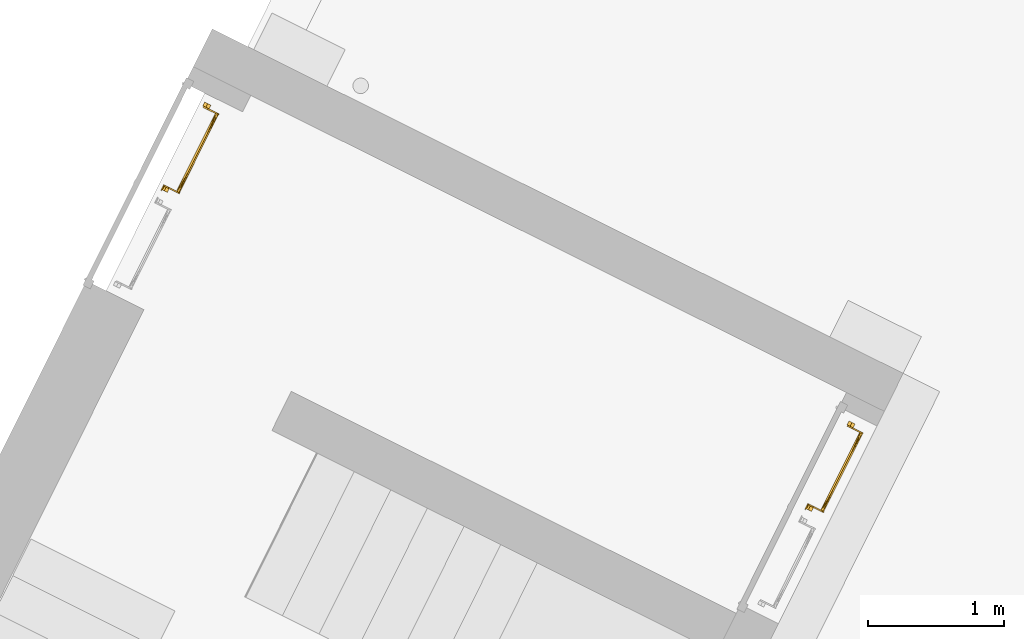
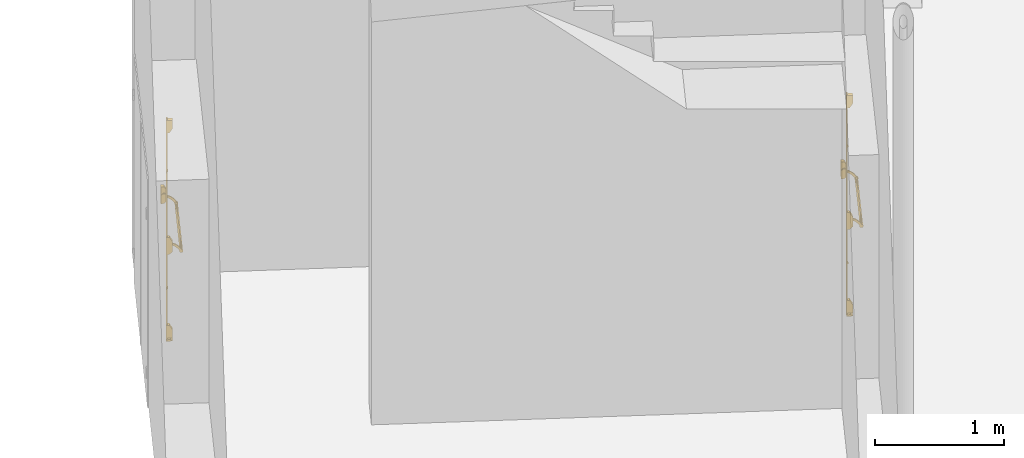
# One storey, part 25 of 91: 2 doors.
"""IFC2X3 building model written with IfcOpenShell, lengths in metres."""

from ifc_helpers import new_model, entity, si_unit, converted_unit, derived_unit, direction, frame, origin, place, context, subcontext, project, spatial, faceted_brep, source, transform, mapped, material, material_list, type_object, type_shapes, element, save


model = new_model("IFC2X3")

# Units and contexts
model_context = context("Model", 3, precision=1e-05, world=origin(), true_north=direction((0.894925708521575, 0.446215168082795)))
context_of_model = context(None, 3, precision=1e-05, world=origin(), true_north=direction((0.894925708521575, 0.446215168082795)))
body_context = subcontext(model_context, "Body", "Model", "MODEL_VIEW")
ifc_project = project(units=[si_unit("LENGTHUNIT", "METRE"), si_unit("AREAUNIT", "SQUARE_METRE"), si_unit("VOLUMEUNIT", "CUBIC_METRE"), converted_unit("PLANEANGLEUNIT", "DEGREE", entity("IfcRatioMeasure", 0.0174532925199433), si_unit("PLANEANGLEUNIT", "RADIAN"), dimensions=[0, 0, 0, 0, 0, 0, 0]), si_unit("MASSUNIT", "GRAM", prefix="KILO"), si_unit("TIMEUNIT", "SECOND"), si_unit("FREQUENCYUNIT", "HERTZ"), si_unit("THERMODYNAMICTEMPERATUREUNIT", "DEGREE_CELSIUS"), derived_unit("THERMALTRANSMITTANCEUNIT", [(si_unit("MASSUNIT", "GRAM", prefix="KILO"), 1), (si_unit("THERMODYNAMICTEMPERATUREUNIT", "KELVIN"), -1), (si_unit("TIMEUNIT", "SECOND"), -3)]), derived_unit("VOLUMETRICFLOWRATEUNIT", [(si_unit("LENGTHUNIT", "METRE"), 3), (si_unit("TIMEUNIT", "SECOND"), -1)]), si_unit("ELECTRICCURRENTUNIT", "AMPERE"), si_unit("ELECTRICVOLTAGEUNIT", "VOLT"), si_unit("POWERUNIT", "WATT"), si_unit("FORCEUNIT", "NEWTON", prefix="KILO"), si_unit("ILLUMINANCEUNIT", "LUX"), si_unit("LUMINOUSFLUXUNIT", "LUMEN"), si_unit("LUMINOUSINTENSITYUNIT", "CANDELA"), si_unit("PRESSUREUNIT", "PASCAL")], contexts=[model_context, context_of_model])

# Site, building, storey
site_placement = place(None, frame((218.228324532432, 584.720189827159, 0.0), z_axis=(0.0, 0.0, 1.0), x_axis=(0.446215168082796, 0.894925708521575, 0.0)))
site = spatial("IfcSite", under=ifc_project, at=site_placement, Name="Default", CompositionType="ELEMENT")
building_placement = place(site_placement, origin())
building = spatial("IfcBuilding", under=site, at=building_placement, CompositionType="ELEMENT")
storey_placement = place(building_placement, origin())
storey = spatial("IfcBuildingStorey", under=building, at=storey_placement, Name="0 - Piano Terra", CompositionType="ELEMENT", Elevation=0.0)

# Doors
ifc_material_1 = material(Name="Peinture - Gris fonçé")
ifc_material_2 = material(Name="Peinture - Gris")
ifc_material_list_1 = material_list([ifc_material_1, ifc_material_2])
ifc_material_list_2 = material_list([ifc_material_1, ifc_material_2])
door_style = type_object("IfcDoorStyle", Name="BarreAP", ConstructionType="NOTDEFINED", OperationType="NOTDEFINED", ParameterTakesPrecedence=False, Sizeable=False, material=ifc_material_list_2)
shared_shape = source(origin(), body_context, "Body", "Brep", [
    faceted_brep([(0.660000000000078, -0.115651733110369, 0.814015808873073), (0.660000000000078, -0.112636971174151, 0.815264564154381), (0.660000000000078, -0.110048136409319, 0.817251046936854), (0.660000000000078, -0.108061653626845, 0.819839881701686), (0.660000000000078, -0.106812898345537, 0.822854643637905), (0.660000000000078, -0.106386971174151, 0.826089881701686), (0.660000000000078, -0.106812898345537, 0.829325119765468), (0.660000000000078, -0.108061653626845, 0.832339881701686), (0.660000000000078, -0.110048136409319, 0.834928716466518), (0.660000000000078, -0.112636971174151, 0.836915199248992), (0.660000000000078, -0.115651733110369, 0.838163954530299), (0.660000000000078, -0.118886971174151, 0.838589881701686), (0.660000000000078, -0.122122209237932, 0.838163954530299), (0.660000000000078, -0.125136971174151, 0.836915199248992), (0.660000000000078, -0.127725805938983, 0.834928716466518), (0.660000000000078, -0.129712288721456, 0.832339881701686), (0.660000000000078, -0.130961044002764, 0.829325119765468), (0.660000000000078, -0.131386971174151, 0.826089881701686), (0.660000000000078, -0.130961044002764, 0.822854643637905), (0.660000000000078, -0.129712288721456, 0.819839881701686), (0.660000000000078, -0.127725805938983, 0.817251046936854), (0.660000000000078, -0.125136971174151, 0.815264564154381), (0.660000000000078, -0.122122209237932, 0.814015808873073), (0.660000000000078, -0.118886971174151, 0.813589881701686), (0.0250000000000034, -0.122122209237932, 0.838163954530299), (0.0250000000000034, -0.118886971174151, 0.838589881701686), (0.0250000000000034, -0.115651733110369, 0.838163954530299), (0.0250000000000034, -0.112636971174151, 0.836915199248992), (0.0250000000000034, -0.110048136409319, 0.834928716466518), (0.0250000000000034, -0.108061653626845, 0.832339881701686), (0.0250000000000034, -0.106812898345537, 0.829325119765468), (0.0250000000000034, -0.106386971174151, 0.826089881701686), (0.0250000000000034, -0.106812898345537, 0.822854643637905), (0.0250000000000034, -0.108061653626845, 0.819839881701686), (0.0250000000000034, -0.110048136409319, 0.817251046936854), (0.0250000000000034, -0.112636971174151, 0.815264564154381), (0.0250000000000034, -0.115651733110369, 0.814015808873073), (0.0250000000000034, -0.118886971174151, 0.813589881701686), (0.0250000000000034, -0.122122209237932, 0.814015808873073), (0.0250000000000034, -0.125136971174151, 0.815264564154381), (0.0250000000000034, -0.127725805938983, 0.817251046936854), (0.0250000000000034, -0.129712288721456, 0.819839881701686), (0.0250000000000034, -0.130961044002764, 0.822854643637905), (0.0250000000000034, -0.131386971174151, 0.826089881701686), (0.0250000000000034, -0.130961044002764, 0.829325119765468), (0.0250000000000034, -0.129712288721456, 0.832339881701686), (0.0250000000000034, -0.127725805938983, 0.834928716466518), (0.0250000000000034, -0.125136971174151, 0.836915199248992), (0.187822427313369, -0.117501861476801, 0.813666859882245), (0.148450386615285, -0.131386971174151, 0.826089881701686), (0.342500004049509, -0.117635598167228, 0.813652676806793), (0.27190080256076, -0.106386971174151, 0.826089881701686), (0.342500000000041, -0.106386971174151, 0.826089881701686), (0.413099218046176, -0.106386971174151, 0.826089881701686), (0.497177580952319, -0.117501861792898, 0.813666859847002), (0.536549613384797, -0.131386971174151, 0.826089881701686), (0.342500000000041, -0.131386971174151, 0.826089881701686), (0.413099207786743, -0.131386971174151, 0.826089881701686), (0.536549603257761, -0.106386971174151, 0.826089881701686), (0.14845039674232, -0.106386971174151, 0.826089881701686), (0.271900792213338, -0.131386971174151, 0.826089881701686), (0.49717758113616, -0.120272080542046, 0.83851290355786), (0.187822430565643, -0.120272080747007, 0.838512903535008), (0.342500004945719, -0.120138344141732, 0.838527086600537)], [[[0, 1, 2, 3, 4, 5, 6, 7, 8, 9, 10, 11, 12, 13, 14, 15, 16, 17, 18, 19, 20, 21, 22, 23]], [[24, 25, 26, 27, 28, 29, 30, 31, 32, 33, 34, 35, 36, 37, 38, 39, 40, 41, 42, 43, 44, 45, 46, 47]], [[35, 48, 36]], [[38, 48, 39]], [[39, 49, 40]], [[48, 35, 34]], [[50, 51, 52, 53]], [[23, 54, 0]], [[55, 20, 19]], [[49, 41, 40]], [[55, 54, 21]], [[37, 36, 48]], [[41, 49, 42]], [[42, 49, 43]], [[18, 17, 55]], [[48, 50, 56]], [[54, 56, 50]], [[54, 55, 57, 56]], [[4, 3, 54]], [[55, 19, 18]], [[37, 48, 38]], [[34, 33, 48]], [[32, 48, 33]], [[48, 32, 51]], [[50, 48, 51]], [[4, 53, 58, 5]], [[32, 31, 59, 51]], [[48, 56, 60, 49]], [[20, 55, 21]], [[22, 21, 54]], [[4, 54, 53]], [[23, 22, 54]], [[54, 2, 1]], [[1, 0, 54]], [[49, 39, 48]], [[50, 53, 54]], [[3, 2, 54]], [[16, 15, 61]], [[59, 27, 62]], [[16, 61, 57]], [[62, 27, 26]], [[62, 63, 52]], [[15, 14, 61]], [[8, 7, 58]], [[59, 29, 28]], [[62, 25, 24]], [[58, 61, 9]], [[59, 31, 30]], [[6, 5, 58]], [[11, 61, 12]], [[7, 6, 58]], [[52, 63, 61]], [[25, 62, 26]], [[28, 27, 59]], [[47, 46, 62]], [[61, 58, 53, 52]], [[63, 60, 56, 57]], [[29, 59, 30]], [[45, 62, 46]], [[44, 62, 45]], [[62, 44, 60]], [[63, 62, 60]], [[16, 57, 55, 17]], [[44, 43, 49, 60]], [[47, 62, 24]], [[8, 58, 9]], [[61, 10, 9]], [[11, 10, 61]], [[14, 13, 61]], [[12, 61, 13]], [[63, 57, 61]], [[62, 52, 51, 59]]]),
    faceted_brep([(0.660000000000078, -0.0338758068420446, 0.91792261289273), (0.660000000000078, -0.0289439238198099, 0.919607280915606), (0.660000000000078, -0.0237442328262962, 0.919960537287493), (0.660000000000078, -0.0186298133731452, 0.918958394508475), (0.660000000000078, -0.0139479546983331, 0.916668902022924), (0.660000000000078, -0.0100165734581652, 0.913247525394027), (0.660000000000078, -0.00710262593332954, 0.908926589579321), (0.660000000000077, -0.00540398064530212, 0.903999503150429), (0.660000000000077, -0.00503598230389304, 0.898800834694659), (0.660000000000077, -0.0060236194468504, 0.893683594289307), (0.660000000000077, -0.00829982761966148, 0.888995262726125), (0.660000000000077, -0.0117100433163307, 0.885054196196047), (0.660000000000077, -0.0160226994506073, 0.88212800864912), (0.660000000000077, -0.0209449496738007, 0.880415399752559), (0.660000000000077, -0.0261425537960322, 0.880032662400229), (0.660000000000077, -0.0312625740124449, 0.881005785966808), (0.660000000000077, -0.0359573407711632, 0.883268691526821), (0.660000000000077, -0.039908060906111, 0.886667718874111), (0.660000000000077, -0.065856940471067, 0.873811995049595), (0.660000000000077, -0.0879705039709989, 0.855114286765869), (0.660000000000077, -0.10496092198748, 0.831663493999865), (0.660000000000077, -0.104007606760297, 0.827988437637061), (0.660000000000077, -0.10400755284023, 0.824191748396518), (0.660000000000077, -0.104960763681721, 0.820516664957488), (0.660000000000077, -0.106806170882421, 0.817198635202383), (0.660000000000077, -0.109425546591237, 0.814450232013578), (0.660000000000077, -0.112651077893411, 0.812447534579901), (0.660000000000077, -0.11627611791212, 0.811318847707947), (0.660000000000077, -0.120068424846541, 0.811136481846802), (0.660000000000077, -0.123785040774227, 0.811912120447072), (0.660000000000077, -0.127187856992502, 0.813596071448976), (0.660000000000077, -0.130058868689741, 0.816080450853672), (0.660000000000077, -0.132214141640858, 0.819206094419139), (0.660000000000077, -0.133515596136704, 0.822772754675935), (0.660000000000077, -0.133879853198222, 0.826551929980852), (0.660000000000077, -0.133283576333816, 0.830301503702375), (0.660000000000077, -0.13176496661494, 0.833781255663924), (0.660000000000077, -0.129421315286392, 0.836768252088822), (0.660000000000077, -0.126402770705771, 0.839071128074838), (0.660000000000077, -0.122902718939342, 0.840542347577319), (0.660000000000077, -0.10242643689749, 0.868938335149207), (0.660000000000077, -0.0755453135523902, 0.891366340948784), (0.660000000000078, -0.0439402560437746, 0.906423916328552), (0.660000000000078, -0.041637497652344, 0.911099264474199), (0.660000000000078, -0.0382049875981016, 0.915020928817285), (0.670000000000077, -0.127187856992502, 0.813596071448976), (0.670000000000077, -0.123785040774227, 0.811912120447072), (0.670000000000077, -0.120068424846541, 0.811136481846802), (0.670000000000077, -0.11627611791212, 0.811318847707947), (0.670000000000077, -0.112651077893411, 0.812447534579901), (0.670000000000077, -0.109425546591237, 0.814450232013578), (0.670000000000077, -0.106806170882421, 0.817198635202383), (0.670000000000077, -0.104960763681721, 0.820516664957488), (0.670000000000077, -0.10400755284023, 0.824191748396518), (0.670000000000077, -0.104007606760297, 0.827988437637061), (0.670000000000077, -0.10496092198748, 0.831663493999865), (0.670000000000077, -0.0879705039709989, 0.855114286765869), (0.670000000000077, -0.065856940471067, 0.873811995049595), (0.670000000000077, -0.039908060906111, 0.886667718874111), (0.670000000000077, -0.0359573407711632, 0.883268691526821), (0.670000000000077, -0.0312625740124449, 0.881005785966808), (0.670000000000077, -0.0261425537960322, 0.880032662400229), (0.670000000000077, -0.0209449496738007, 0.880415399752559), (0.670000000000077, -0.0160226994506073, 0.88212800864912), (0.670000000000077, -0.0117100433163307, 0.885054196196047), (0.670000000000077, -0.00829982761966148, 0.888995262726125), (0.670000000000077, -0.0060236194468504, 0.893683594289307), (0.670000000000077, -0.00503598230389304, 0.898800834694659), (0.670000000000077, -0.00540398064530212, 0.903999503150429), (0.670000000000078, -0.00710262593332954, 0.908926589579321), (0.670000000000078, -0.0100165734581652, 0.913247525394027), (0.670000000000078, -0.0139479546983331, 0.916668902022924), (0.670000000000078, -0.0186298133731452, 0.918958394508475), (0.670000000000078, -0.0237442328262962, 0.919960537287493), (0.670000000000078, -0.0289439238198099, 0.919607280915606), (0.670000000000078, -0.0338758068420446, 0.91792261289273), (0.670000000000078, -0.0382049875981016, 0.915020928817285), (0.670000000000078, -0.041637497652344, 0.911099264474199), (0.670000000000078, -0.0439402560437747, 0.906423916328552), (0.670000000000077, -0.0755453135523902, 0.891366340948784), (0.670000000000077, -0.10242643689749, 0.868938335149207), (0.670000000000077, -0.122902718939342, 0.840542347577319), (0.670000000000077, -0.126402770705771, 0.839071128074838), (0.670000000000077, -0.129421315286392, 0.836768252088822), (0.670000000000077, -0.13176496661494, 0.833781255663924), (0.670000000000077, -0.133283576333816, 0.830301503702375), (0.670000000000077, -0.133879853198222, 0.826551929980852), (0.670000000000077, -0.133515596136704, 0.822772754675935), (0.670000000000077, -0.132214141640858, 0.819206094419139), (0.670000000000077, -0.130058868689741, 0.816080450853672)], [[[0, 1, 2, 3, 4, 5, 6, 7, 8, 9, 10, 11, 12, 13, 14, 15, 16, 17, 18, 19, 20, 21, 22, 23, 24, 25, 26, 27, 28, 29, 30, 31, 32, 33, 34, 35, 36, 37, 38, 39, 40, 41, 42, 43, 44]], [[45, 46, 47, 48, 49, 50, 51, 52, 53, 54, 55, 56, 57, 58, 59, 60, 61, 62, 63, 64, 65, 66, 67, 68, 69, 70, 71, 72, 73, 74, 75, 76, 77, 78, 79, 80, 81, 82, 83, 84, 85, 86, 87, 88, 89]], [[77, 43, 42, 78]], [[75, 0, 44, 76]], [[44, 43, 77, 76]], [[1, 0, 75, 74]], [[3, 2, 73, 72]], [[5, 4, 71, 70]], [[72, 71, 4, 3]], [[74, 73, 2, 1]], [[69, 6, 5, 70]], [[6, 69, 68, 7]], [[67, 8, 7, 68]], [[65, 10, 9, 66]], [[9, 8, 67, 66]], [[11, 10, 65, 64]], [[13, 12, 63, 62]], [[15, 14, 61, 60]], [[62, 61, 14, 13]], [[64, 63, 12, 11]], [[59, 16, 15, 60]], [[59, 58, 17, 16]], [[58, 57, 18, 17]], [[57, 56, 19, 18]], [[56, 55, 20, 19]], [[54, 21, 20, 55]], [[52, 23, 22, 53]], [[22, 21, 54, 53]], [[24, 23, 52, 51]], [[26, 25, 50, 49]], [[28, 27, 48, 47]], [[49, 48, 27, 26]], [[51, 50, 25, 24]], [[46, 29, 28, 47]], [[46, 45, 30, 29]], [[89, 31, 30, 45]], [[87, 33, 32, 88]], [[32, 31, 89, 88]], [[34, 33, 87, 86]], [[36, 35, 85, 84]], [[38, 37, 83, 82]], [[84, 83, 37, 36]], [[86, 85, 35, 34]], [[81, 39, 38, 82]], [[81, 80, 40, 39]], [[80, 79, 41, 40]], [[79, 78, 42, 41]]]),
    faceted_brep([(0.025, -0.129421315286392, 0.836768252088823), (0.025, -0.13176496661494, 0.833781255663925), (0.025, -0.133283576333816, 0.830301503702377), (0.025, -0.133879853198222, 0.826551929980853), (0.025, -0.133515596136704, 0.822772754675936), (0.025, -0.132214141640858, 0.819206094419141), (0.025, -0.130058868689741, 0.816080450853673), (0.025, -0.127187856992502, 0.813596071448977), (0.025, -0.123785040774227, 0.811912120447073), (0.025, -0.120068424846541, 0.811136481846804), (0.025, -0.11627611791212, 0.811318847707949), (0.025, -0.112651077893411, 0.812447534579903), (0.025, -0.109425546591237, 0.81445023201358), (0.025, -0.106806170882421, 0.817198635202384), (0.025, -0.104960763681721, 0.82051666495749), (0.025, -0.10400755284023, 0.824191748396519), (0.025, -0.104007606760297, 0.827988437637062), (0.025, -0.10496092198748, 0.831663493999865), (0.025, -0.0879705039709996, 0.85511428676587), (0.025, -0.0658569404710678, 0.873811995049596), (0.025, -0.0399080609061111, 0.886667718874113), (0.025, -0.0359573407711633, 0.883268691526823), (0.025, -0.031262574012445, 0.881005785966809), (0.025, -0.0261425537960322, 0.88003266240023), (0.025, -0.0209449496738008, 0.880415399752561), (0.025, -0.0160226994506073, 0.882128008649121), (0.025, -0.0117100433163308, 0.885054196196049), (0.025, -0.00829982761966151, 0.888995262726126), (0.025, -0.00602361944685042, 0.893683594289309), (0.025, -0.00503598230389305, 0.89880083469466), (0.025, -0.00540398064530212, 0.903999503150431), (0.025, -0.00710262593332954, 0.908926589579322), (0.025, -0.0100165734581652, 0.913247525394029), (0.025, -0.0139479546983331, 0.916668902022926), (0.025, -0.0186298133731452, 0.918958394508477), (0.025, -0.0237442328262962, 0.919960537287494), (0.025, -0.0289439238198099, 0.919607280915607), (0.025, -0.0338758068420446, 0.917922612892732), (0.025, -0.0382049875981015, 0.915020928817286), (0.025, -0.041637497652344, 0.9110992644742), (0.025, -0.0439402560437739, 0.906423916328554), (0.025, -0.0755453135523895, 0.891366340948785), (0.025, -0.10242643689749, 0.868938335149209), (0.025, -0.122902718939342, 0.84054234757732), (0.025, -0.126402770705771, 0.839071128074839), (0.015, -0.00710262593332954, 0.908926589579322), (0.015, -0.00540398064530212, 0.903999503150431), (0.015, -0.00503598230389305, 0.89880083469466), (0.015, -0.00602361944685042, 0.893683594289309), (0.015, -0.00829982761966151, 0.888995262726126), (0.015, -0.0117100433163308, 0.885054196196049), (0.015, -0.0160226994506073, 0.882128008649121), (0.015, -0.0209449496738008, 0.880415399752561), (0.015, -0.0261425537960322, 0.88003266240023), (0.015, -0.031262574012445, 0.881005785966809), (0.015, -0.0359573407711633, 0.883268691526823), (0.015, -0.0399080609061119, 0.886667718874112), (0.015, -0.0658569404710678, 0.873811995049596), (0.015, -0.0879705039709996, 0.85511428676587), (0.015, -0.10496092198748, 0.831663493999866), (0.015, -0.104007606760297, 0.827988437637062), (0.015, -0.10400755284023, 0.824191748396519), (0.015, -0.104960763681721, 0.82051666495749), (0.015, -0.106806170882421, 0.817198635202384), (0.015, -0.109425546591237, 0.81445023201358), (0.015, -0.112651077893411, 0.812447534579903), (0.015, -0.11627611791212, 0.811318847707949), (0.015, -0.120068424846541, 0.811136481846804), (0.015, -0.123785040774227, 0.811912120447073), (0.015, -0.127187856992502, 0.813596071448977), (0.015, -0.130058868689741, 0.816080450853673), (0.015, -0.132214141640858, 0.819206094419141), (0.015, -0.133515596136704, 0.822772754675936), (0.015, -0.133879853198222, 0.826551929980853), (0.015, -0.133283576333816, 0.830301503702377), (0.015, -0.13176496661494, 0.833781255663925), (0.015, -0.129421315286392, 0.836768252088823), (0.015, -0.126402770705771, 0.839071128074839), (0.015, -0.122902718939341, 0.840542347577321), (0.015, -0.10242643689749, 0.868938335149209), (0.015, -0.0755453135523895, 0.891366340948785), (0.015, -0.0439402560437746, 0.906423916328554), (0.015, -0.041637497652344, 0.9110992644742), (0.015, -0.0382049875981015, 0.915020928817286), (0.015, -0.0338758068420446, 0.917922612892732), (0.015, -0.0289439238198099, 0.919607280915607), (0.015, -0.0237442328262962, 0.919960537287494), (0.015, -0.0186298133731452, 0.918958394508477), (0.015, -0.0139479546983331, 0.916668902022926), (0.015, -0.0100165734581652, 0.913247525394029)], [[[0, 1, 2, 3, 4, 5, 6, 7, 8, 9, 10, 11, 12, 13, 14, 15, 16, 17, 18, 19, 20, 21, 22, 23, 24, 25, 26, 27, 28, 29, 30, 31, 32, 33, 34, 35, 36, 37, 38, 39, 40, 41, 42, 43, 44]], [[45, 46, 47, 48, 49, 50, 51, 52, 53, 54, 55, 56, 57, 58, 59, 60, 61, 62, 63, 64, 65, 66, 67, 68, 69, 70, 71, 72, 73, 74, 75, 76, 77, 78, 79, 80, 81, 82, 83, 84, 85, 86, 87, 88, 89]], [[81, 80, 41, 40]], [[80, 79, 42, 41]], [[79, 78, 43, 42]], [[77, 44, 43, 78]], [[75, 1, 0, 76]], [[0, 44, 77, 76]], [[2, 1, 75, 74]], [[4, 3, 73, 72]], [[6, 5, 71, 70]], [[72, 71, 5, 4]], [[74, 73, 3, 2]], [[69, 7, 6, 70]], [[69, 68, 8, 7]], [[67, 9, 8, 68]], [[65, 11, 10, 66]], [[10, 9, 67, 66]], [[12, 11, 65, 64]], [[14, 13, 63, 62]], [[16, 15, 61, 60]], [[62, 61, 15, 14]], [[64, 63, 13, 12]], [[59, 17, 16, 60]], [[59, 58, 18, 17]], [[58, 57, 19, 18]], [[57, 56, 20, 19]], [[55, 21, 20, 56]], [[53, 23, 22, 54]], [[22, 21, 55, 54]], [[24, 23, 53, 52]], [[26, 25, 51, 50]], [[28, 27, 49, 48]], [[50, 49, 27, 26]], [[52, 51, 25, 24]], [[47, 29, 28, 48]], [[29, 47, 46, 30]], [[45, 31, 30, 46]], [[88, 33, 32, 89]], [[32, 31, 45, 89]], [[34, 33, 88, 87]], [[36, 35, 86, 85]], [[38, 37, 84, 83]], [[85, 84, 37, 36]], [[87, 86, 35, 34]], [[82, 39, 38, 83]], [[82, 81, 40, 39]]]),
    faceted_brep([(0.700000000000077, -0.0500000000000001, 0.936698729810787), (0.700000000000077, -0.0500000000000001, 0.844999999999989), (0.700000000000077, -0.0250000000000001, 0.819999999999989), (0.700000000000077, 0.0, 0.819999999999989), (0.700000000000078, 0.0, 0.980000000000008), (0.700000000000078, -0.0250000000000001, 0.980000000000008), (0.670000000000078, -0.0500000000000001, 0.936698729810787), (0.670000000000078, -0.0250000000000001, 0.980000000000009), (0.670000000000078, 0.0, 0.980000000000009), (0.670000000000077, 0.0, 0.819999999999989), (0.670000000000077, -0.0250000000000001, 0.819999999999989), (0.670000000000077, -0.0500000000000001, 0.844999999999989)], [[[0, 1, 2, 3, 4, 5]], [[6, 7, 8, 9, 10, 11]], [[1, 0, 6, 11]], [[2, 1, 11, 10]], [[3, 2, 10, 9]], [[4, 3, 9, 8]], [[5, 4, 8, 7]], [[0, 5, 7, 6]]]),
    faceted_brep([(-0.0129999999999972, -0.005, 1.605), (-0.0129999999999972, -0.015, 1.605), (0.0130000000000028, -0.015, 1.605), (0.013000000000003, -0.005, 1.605), (0.0250000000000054, -0.005, 1.605), (0.0250000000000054, 0.0, 1.605), (0.00800000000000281, 0.0, 1.605), (0.00800000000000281, -0.01, 1.605), (-0.00799999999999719, -0.01, 1.605), (-0.00799999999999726, 0.0, 1.605), (-0.0249999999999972, 0.0, 1.605), (-0.0249999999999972, -0.005, 1.605), (-0.0129999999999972, -0.005, 1.595), (-0.0249999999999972, -0.005, 1.595), (-0.0249999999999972, 0.0, 1.595), (-0.00799999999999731, 0.0, 1.595), (-0.00799999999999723, -0.01, 1.595), (0.00800000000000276, -0.01, 1.595), (0.00800000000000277, 0.0, 1.595), (0.0250000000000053, 0.0, 1.595), (0.0250000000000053, -0.005, 1.595), (0.013000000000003, -0.005, 1.595), (0.0130000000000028, -0.015, 1.595), (-0.0129999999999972, -0.015, 1.595)], [[[0, 1, 2, 3, 4, 5, 6, 7, 8, 9, 10, 11]], [[12, 13, 14, 15, 16, 17, 18, 19, 20, 21, 22, 23]], [[1, 0, 12, 23]], [[2, 1, 23, 22]], [[3, 2, 22, 21]], [[4, 3, 21, 20]], [[5, 4, 20, 19]], [[6, 5, 19, 18]], [[7, 6, 18, 17]], [[8, 7, 17, 16]], [[9, 8, 16, 15]], [[10, 9, 15, 14]], [[11, 10, 14, 13]], [[0, 11, 13, 12]]]),
    faceted_brep([(0.015, -0.0500000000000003, 2.00830127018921), (0.015, -0.0250000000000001, 1.96499999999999), (0.015, 0.0, 1.96499999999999), (0.015, 0.0, 2.08499999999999), (0.015, -0.0500000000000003, 2.08499999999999), (-0.015, -0.0500000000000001, 0.106698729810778), (-0.015, -0.0250000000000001, 0.15), (-0.015, 0.0, 0.15), (-0.015, 0.0, 0.0300000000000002), (-0.015, -0.0500000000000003, 0.0300000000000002), (-0.015, -0.0500000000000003, 2.00830127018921), (-0.015, -0.0250000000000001, 1.96499999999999), (-0.015, 0.0, 1.96499999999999), (-0.008, 0.0, 1.96499999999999), (-0.008, -0.01, 1.96499999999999), (0.008, -0.01, 1.96499999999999), (0.008, 0.0, 1.96499999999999), (0.008, 0.0, 0.98000000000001), (0.015, 0.0, 0.98000000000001), (0.015, 0.0, 0.819999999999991), (0.008, 0.0, 0.819999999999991), (0.008, 0.0, 0.15), (0.015, 0.0, 0.15), (0.015, 0.0, 0.0300000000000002), (0.008, 0.0, 0.0300000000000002), (0.008, 0.0, 0.0149999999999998), (-0.008, 0.0, 0.0149999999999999), (-0.008, 0.0, 0.0300000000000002), (-0.008, 0.0, 0.15), (-0.008, 0.0, 0.819999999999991), (-0.015, 0.0, 0.819999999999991), (-0.015, 0.0, 0.98000000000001), (-0.008, 0.0, 0.98000000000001), (-0.015, 0.0, 2.08499999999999), (-0.008, 0.0, 2.08499999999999), (-0.008, 0.0, 2.1), (0.008, 0.0, 2.1), (0.008, 0.0, 2.08499999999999), (0.008, -0.01, 2.08499999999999), (-0.008, -0.01, 2.08499999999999), (-0.015, -0.0500000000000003, 2.08499999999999), (0.015, -0.0500000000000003, 0.0300000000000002), (0.015, -0.0500000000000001, 0.106698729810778), (-0.008, -0.01, 0.0300000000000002), (0.008, -0.01, 0.0300000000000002), (0.015, -0.0250000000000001, 0.15), (0.008, -0.01, 0.15), (-0.008, -0.01, 0.15), (-0.008, -0.01, 2.1), (0.008, -0.01, 2.1), (0.008, -0.01, 0.0149999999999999), (-0.008, -0.01, 0.0149999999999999), (0.015, -0.025, 0.98000000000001), (0.015, -0.0500000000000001, 0.936698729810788), (0.015, -0.0500000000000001, 0.844999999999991), (0.015, -0.025, 0.819999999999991), (-0.015, -0.025, 0.98000000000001), (-0.015, -0.025, 0.819999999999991), (-0.015, -0.0500000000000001, 0.844999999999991), (-0.015, -0.0500000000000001, 0.936698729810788), (-0.008, -0.01, 0.819999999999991), (0.008, -0.01, 0.819999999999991), (0.008, -0.01, 0.98000000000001), (-0.008, -0.01, 0.98000000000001)], [[[0, 1, 2, 3, 4]], [[5, 6, 7, 8, 9]], [[1, 0, 10, 11]], [[2, 1, 11, 12, 13, 14, 15, 16]], [[3, 2, 16, 17, 18, 19, 20, 21, 22, 23, 24, 25, 26, 27, 8, 7, 28, 29, 30, 31, 32, 13, 12, 33, 34, 35, 36, 37]], [[4, 3, 37, 38, 39, 34, 33, 40]], [[0, 4, 40, 10]], [[41, 42, 5, 9]], [[23, 41, 9, 8, 27, 43, 44, 24]], [[45, 22, 21, 46, 47, 28, 7, 6]], [[42, 45, 6, 5]], [[36, 35, 48, 49]], [[25, 50, 51, 26]], [[48, 35, 34, 39]], [[49, 48, 39, 38]], [[36, 49, 38, 37]], [[52, 53, 54, 55, 19, 18]], [[56, 31, 30, 57, 58, 59]], [[53, 52, 56, 59]], [[54, 53, 59, 58]], [[55, 54, 58, 57]], [[19, 55, 57, 30, 29, 60, 61, 20]], [[52, 18, 17, 62, 63, 32, 31, 56]], [[16, 15, 62, 17]], [[46, 21, 20, 61]], [[50, 25, 24, 44]], [[15, 14, 63, 62]], [[47, 46, 61, 60]], [[51, 50, 44, 43]], [[14, 13, 32, 63]], [[28, 47, 60, 29]], [[26, 51, 43, 27]], [[10, 40, 33, 12, 11]], [[42, 41, 23, 22, 45]]]),
    faceted_brep([(-0.00799999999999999, -0.01, 0.505), (-0.00800000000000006, 0.0, 0.505), (-0.025, 0.0, 0.505), (-0.025, -0.005, 0.505), (-0.013, -0.005, 0.505), (-0.013, -0.015, 0.505), (0.013, -0.015, 0.504999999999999), (0.013, -0.005, 0.504999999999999), (0.0250000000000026, -0.005, 0.504999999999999), (0.0250000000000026, 0.0, 0.504999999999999), (0.00800000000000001, 0.0, 0.504999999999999), (0.00800000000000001, -0.01, 0.504999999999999), (-0.00800000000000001, -0.01, 0.495), (0.00799999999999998, -0.01, 0.494999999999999), (0.00799999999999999, 0.0, 0.494999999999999), (0.0250000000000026, 0.0, 0.494999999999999), (0.0250000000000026, -0.005, 0.494999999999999), (0.013, -0.005, 0.494999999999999), (0.013, -0.015, 0.494999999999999), (-0.013, -0.015, 0.495), (-0.013, -0.005, 0.495), (-0.025, -0.005, 0.495), (-0.025, 0.0, 0.495), (-0.00800000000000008, 0.0, 0.495)], [[[0, 1, 2, 3, 4, 5, 6, 7, 8, 9, 10, 11]], [[12, 13, 14, 15, 16, 17, 18, 19, 20, 21, 22, 23]], [[1, 0, 12, 23]], [[2, 1, 23, 22]], [[3, 2, 22, 21]], [[4, 3, 21, 20]], [[5, 4, 20, 19]], [[6, 5, 19, 18]], [[7, 6, 18, 17]], [[8, 7, 17, 16]], [[9, 8, 16, 15]], [[10, 9, 15, 14]], [[11, 10, 14, 13]], [[0, 11, 13, 12]]]),
    faceted_brep([(0.015, -0.0322782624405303, 0.015), (0.015, -0.0500000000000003, 0.00673621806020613), (0.015, -0.0500000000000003, 0.0), (0.015, 0.0, 0.0), (0.015, 0.0, 0.0149999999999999), (-0.015, -0.0322782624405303, 0.015), (-0.015, 0.0, 0.0149999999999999), (-0.015, 0.0, 0.0), (-0.015, -0.0500000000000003, 0.0), (-0.015, -0.0500000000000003, 0.00673621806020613)], [[[0, 1, 2, 3, 4]], [[5, 6, 7, 8, 9]], [[1, 0, 5, 9]], [[2, 1, 9, 8]], [[3, 2, 8, 7]], [[4, 3, 7, 6]], [[0, 4, 6, 5]]]),
])
type_shapes(door_style, [shared_shape])
door_1_placement = place(storey_placement, frame((-53.9044493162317, 6.26892100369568, 0.0)))
element("IfcDoor", 1, at=door_1_placement, inside=storey, type_object=door_style, material=ifc_material_list_1, Name="BarreAP:BarreAP", ObjectType="BarreAP", OverallHeight=2.1, OverallWidth=0.760000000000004, context=body_context, shape_type="MappedRepresentation", body=[
    mapped(shared_shape, transform((0.0, 0.0, 0.0), scale=1.0)),
])
ifc_material_list_3 = material_list([ifc_material_1, ifc_material_2])
door_2_placement = place(storey_placement, frame((-53.8894493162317, 0.9989210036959, 0.0)))
element("IfcDoor", 2, at=door_2_placement, inside=storey, type_object=door_style, material=ifc_material_list_3, Name="BarreAP:BarreAP", ObjectType="BarreAP", OverallHeight=2.1, OverallWidth=0.760000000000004, context=body_context, shape_type="MappedRepresentation", body=[
    mapped(shared_shape, transform((0.0, 0.0, 0.0), scale=1.0)),
])

save(model, "model.ifc")
